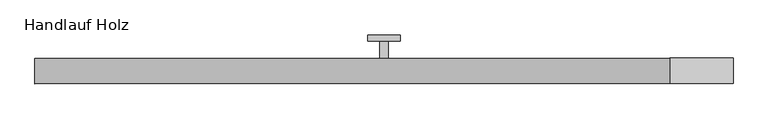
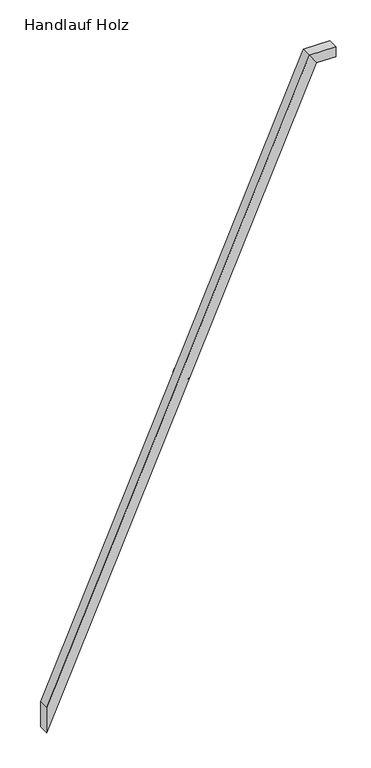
"""IFC4 building model written with IfcOpenShell, lengths in millimetres: railing geometry, Handlauf Holz."""

from ifc_helpers import new_model, si_unit, point, frame, frame_2d, origin, place, context, project, spatial, circle_curve, ellipse_curve, trimmed, segment, composite_curve, outline, extrude, faceted_brep, source, transform, mapped, element, save
from ifc_brep_helpers import plane_surface, cylinder_surface, revolved_surface, advanced_brep


def handlauf_holz_f6a84104(model_context):
    return source(origin(), model_context, "Body", "SolidModel", [
        faceted_brep([(3490.0, 5397.6, 4977.2727273), (3490.0, 5397.6, 4877.9527252), (3490.0, 5357.6, 4877.9527252), (3490.0, 5357.6, 4977.2727273), (4490.0, 5397.6, 7250.0), (4516.1008009, 5397.6, 7210.0), (4516.1008009, 5357.6, 7210.0), (4490.0, 5357.6, 7250.0), (4590.0, 5397.6, 7250.0), (4590.0, 5357.6, 7250.0), (4590.0, 5357.6, 7210.0), (4590.0, 5397.6, 7210.0)], [[[0, 1, 2, 3]], [[1, 0, 4, 5]], [[2, 1, 5, 6]], [[3, 2, 6, 7]], [[0, 3, 7, 4]], [[8, 9, 10, 11]], [[5, 4, 8, 11]], [[6, 5, 11, 10]], [[7, 6, 10, 9]], [[4, 7, 9, 8]]]),
        advanced_brep(
        [(4033.65, 5377.6, 6168.2227273), (4046.35, 5377.6, 6168.2227273), (4046.35, 5377.6, 6111.0727273), (4033.65, 5377.6, 6111.0727273), (4046.35, 5396.65, 6092.0227273), (4033.65, 5396.65, 6092.0227273), (4033.65, 5425.225, 6092.0227273), (4046.35, 5425.225, 6092.0227273)],
        [
            (0, 1, circle_curve(frame((4040.0, 5377.6, 6168.2227273), z_axis=(0.0, 0.0, 1.0), x_axis=(1.0, 0.0, 0.0)), 6.35)),
            (1, 0, circle_curve(frame((4040.0, 5377.6, 6168.2227273), z_axis=(0.0, 0.0, 1.0), x_axis=(1.0, 0.0, 0.0)), 6.35)),
            (1, 2),
            (2, 3, circle_curve(frame((4040.0, 5377.6, 6111.0727273), z_axis=(0.0, 0.0, 1.0), x_axis=(1.0, 0.0, 0.0)), 6.35)),
            (3, 0),
            (3, 2, circle_curve(frame((4040.0, 5377.6, 6111.0727273), z_axis=(0.0, 0.0, 1.0), x_axis=(1.0, 0.0, 0.0)), 6.35)),
            (4, 5, circle_curve(frame((4040.0, 5396.65, 6092.0227273), z_axis=(0.0, -1.0, 0.0), x_axis=(1.0, 0.0, 0.0)), 6.35)),
            (5, 3, circle_curve(frame((4033.65, 5396.65, 6111.0727273), z_axis=(-1.0, 0.0, 0.0), x_axis=(0.0, -1.0, 0.0)), 19.05)),
            (2, 4, circle_curve(frame((4046.35, 5396.65, 6111.0727273), z_axis=(1.0, 0.0, 0.0), x_axis=(0.0, -1.0, 0.0)), 19.05)),
            (5, 4, circle_curve(frame((4040.0, 5396.65, 6092.0227273), z_axis=(0.0, -1.0, 0.0), x_axis=(1.0, 0.0, 0.0)), 6.35)),
            (6, 7, circle_curve(frame((4040.0, 5425.225, 6092.0227273), z_axis=(0.0, 1.0, 0.0), x_axis=(1.0, 0.0, 0.0)), 6.35)),
            (7, 6, circle_curve(frame((4040.0, 5425.225, 6092.0227273), z_axis=(0.0, 1.0, 0.0), x_axis=(1.0, 0.0, 0.0)), 6.35)),
            (4, 7),
            (6, 5),
        ],
        [
            plane_surface(frame((4046.35, 5377.6, 6168.2227273), z_axis=(0.0, 0.0, 1.0), x_axis=(0.0, 1.0, 0.0))),
            cylinder_surface(frame((4040.0, 5377.6, 6168.2227273), z_axis=(0.0, 0.0, 1.0), x_axis=(1.0, 0.0, 0.0)), 6.35),
            revolved_surface(trimmed(ellipse_curve(frame((4040.0, 5377.6, 6111.0727273), z_axis=(0.0, 0.0, -1.0), x_axis=(1.0, 0.0, 0.0)), 6.35, 6.35), [point((4033.65, 5377.6, 6111.0727273))], [point((4046.35, 5377.6, 6111.0727273))], True, "CARTESIAN"), (4040.0, 5396.65, 6111.0727273), (-1.0, 0.0, 0.0)),
            revolved_surface(trimmed(ellipse_curve(frame((4040.0, 5377.6, 6111.0727273), z_axis=(0.0, 0.0, -1.0), x_axis=(1.0, 0.0, 0.0)), 6.35, 6.35), [point((4046.35, 5377.6, 6111.0727273))], [point((4033.65, 5377.6, 6111.0727273))], True, "CARTESIAN"), (4040.0, 5396.65, 6111.0727273), (-1.0, 0.0, 0.0)),
            plane_surface(frame((4040.0, 5425.225, 6085.6727273), z_axis=(0.0, 1.0, 0.0), x_axis=(1.0, 0.0, 0.0))),
            cylinder_surface(frame((4040.0, 5396.65, 6092.0227273), z_axis=(0.0, -1.0, 0.0), x_axis=(1.0, 0.0, 0.0)), 6.35),
        ],
        [
            (0, [[1, 2]]),
            (1, [[3, 4, 5, -2]]),
            (1, [[-5, 6, -3, -1]]),
            (2, [[7, 8, -4, 9]]),
            (3, [[10, -9, -6, -8]]),
            (4, [[11, 12]]),
            (5, [[13, -11, 14, -7]]),
            (5, [[-14, -12, -13, -10]]),
        ],
    ),
        extrude(outline(composite_curve([segment(trimmed(circle_curve(frame_2d((6092.0227273, 4040.0)), 25.4), [point((6092.0227273, 4065.4))], [point((6092.0227273, 4014.6))], False, "CARTESIAN"), True, "CONTINUOUS"), segment(trimmed(circle_curve(frame_2d((6092.0227273, 4040.0)), 25.4), [point((6092.0227273, 4014.6))], [point((6092.0227273, 4065.4))], False, "CARTESIAN"), True, "CONTINUOUS")], self_intersect=False)), frame((0.0, 5425.225, 0.0), z_axis=(0.0, 1.0, 0.0), x_axis=(0.0, 0.0, 1.0)), (0.0, 0.0, 1.0), 9.525),
    ])


if __name__ == "__main__":
    model = new_model("IFC4")
    model_context = context("Model", 3, world=origin())
    ifc_project = project(units=[si_unit("LENGTHUNIT", "METRE", prefix="MILLI")], contexts=[model_context])
    site = spatial("IfcSite", under=ifc_project)
    building = spatial("IfcBuilding", under=site)
    placement = place(None, origin())
    handlauf_holz_shape = handlauf_holz_f6a84104(model_context)
    element("IfcRailing", 1, ObjectType="Handlauf Holz", at=placement, inside=building, context=model_context, shape_type="MappedRepresentation", body=[
        mapped(handlauf_holz_shape, transform((0.0, 0.0, 0.0), x_axis=(1.0, 0.0, 0.0), y_axis=(0.0, 1.0, 0.0), z_axis=(0.0, 0.0, 1.0))),
    ])
    save(model, "model.ifc")
